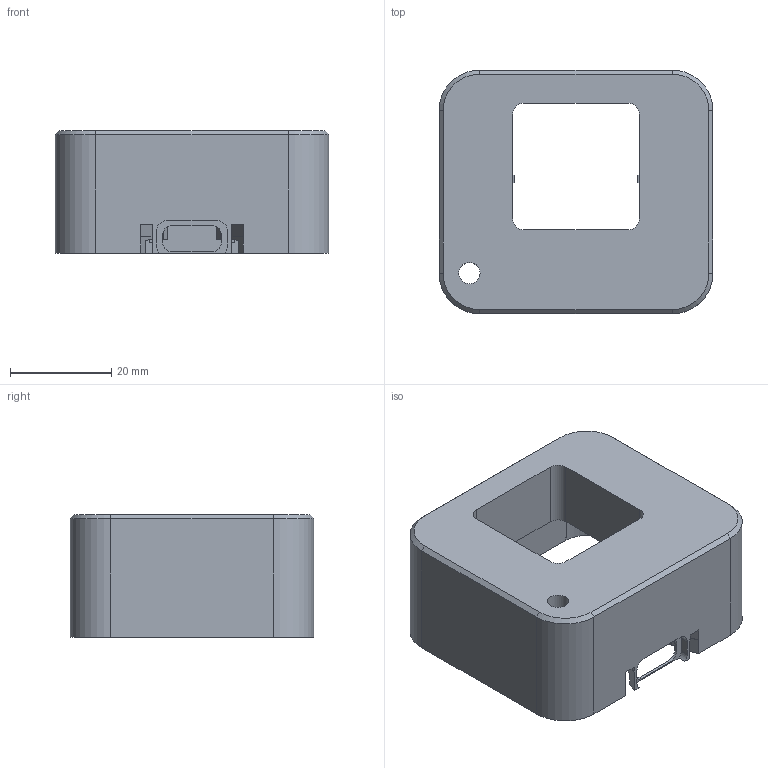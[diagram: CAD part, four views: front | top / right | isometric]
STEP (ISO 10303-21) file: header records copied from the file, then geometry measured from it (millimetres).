
FILE_DESCRIPTION(('Open CASCADE Model'),'2;1');
FILE_NAME('Open CASCADE Shape Model','2026-10-06T20:45:12',('Author'),( 'Open CASCADE'),'Open CASCADE STEP processor 7.9','Open CASCADE 7.9' ,'Unknown');
FILE_SCHEMA(('AUTOMOTIVE_DESIGN { 1 0 10303 214 1 1 1 1 }'));
Length unit declared in the file: millimetre
Products named in the file (1): Open CASCADE STEP translator 7.9 1
Bounding box: 54 x 48 x 24.2 mm (x, y, z)
Volume: 17750.7 mm3; surface area: 17719.4 mm2
Topology: 1 solids, 1 shells, 214 faces, 584 edges, 380 vertices
Faces by surface type: plane 150, cylinder 34, bspline 26, cone 4
Full cylindrical faces by diameter (mm): 3.4 x4, 4.2 x1
Entity records: 14076 total; most frequent: CARTESIAN_POINT 3251, DIRECTION 1704, ORIENTED_EDGE 1168, PCURVE 1168, DEFINITIONAL_REPRESENTATION 1168, LINE 1114, VECTOR 1114, EDGE_CURVE 584
